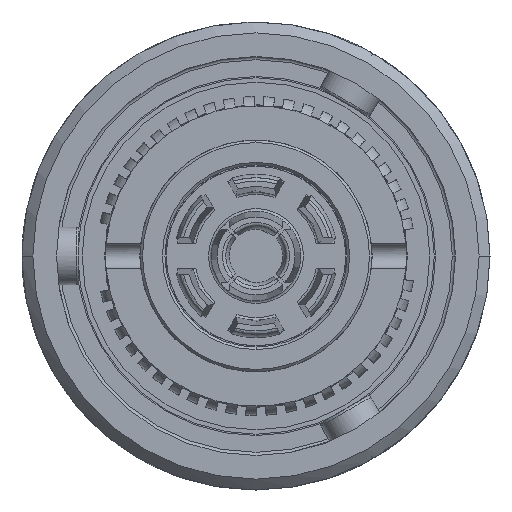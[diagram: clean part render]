
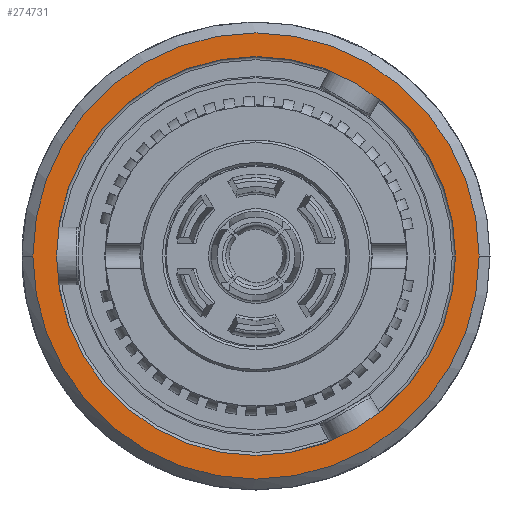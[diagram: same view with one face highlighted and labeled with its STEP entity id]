
A CAD part, left-side view. The second image highlights one B-rep face of the part: STEP entity #274731.
In plain terms, the highlighted planar face has unit normal (-1, 0, 0).
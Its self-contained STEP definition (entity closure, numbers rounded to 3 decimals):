
#77699=CARTESIAN_POINT('',(2.2,0.,0.));
#77700=DIRECTION('',(1.,0.,0.));
#77701=DIRECTION('',(0.,1.,0.));
#77702=AXIS2_PLACEMENT_3D('',#77699,#77700,#77701);
#77862=CARTESIAN_POINT('',(2.2,0.,0.));
#77863=DIRECTION('',(-1.,0.,0.));
#77864=DIRECTION('',(0.,1.,0.));
#77865=AXIS2_PLACEMENT_3D('',#77862,#77863,#77864);
#77993=CARTESIAN_POINT('',(2.2,0.,0.));
#77994=DIRECTION('',(1.,0.,0.));
#77995=DIRECTION('',(0.,1.,0.));
#77996=AXIS2_PLACEMENT_3D('',#77993,#77994,#77995);
#77998=CARTESIAN_POINT('',(2.2,0.,0.));
#77999=DIRECTION('',(-1.,0.,0.));
#78000=DIRECTION('',(0.,1.,0.));
#78001=AXIS2_PLACEMENT_3D('',#77998,#77999,#78000);
#93003=CARTESIAN_POINT('',(2.2,15.56,0.));
#93004=CARTESIAN_POINT('',(2.2,-15.56,0.));
#93005=VERTEX_POINT('',#93003);
#93006=VERTEX_POINT('',#93004);
#93033=CARTESIAN_POINT('',(2.2,-17.4,0.));
#93035=VERTEX_POINT('',#93033);
#93037=CARTESIAN_POINT('',(2.2,17.4,0.));
#93038=VERTEX_POINT('',#93037);
#274716=CARTESIAN_POINT('',(2.2,0.,0.));
#274717=DIRECTION('',(-1.,0.,0.));
#274718=DIRECTION('',(0.,-1.,0.));
#274719=AXIS2_PLACEMENT_3D('',#274716,#274717,#274718);
#274720=PLANE('500',#274719);
#274721=ORIENTED_EDGE('9880',*,*,#274387,.F.);
#274722=ORIENTED_EDGE('9881',*,*,#274044,.T.);
#274723=EDGE_LOOP('500',(#274721,#274722));
#274724=FACE_OUTER_BOUND('500',#274723,.F.);
#274726=ORIENTED_EDGE('9865',*,*,#274725,.F.);
#274728=ORIENTED_EDGE('9864',*,*,#274727,.T.);
#274729=EDGE_LOOP('500',(#274726,#274728));
#274730=FACE_BOUND('500',#274729,.F.);
#77703=CIRCLE('9881',#77702,17.4);
#77866=CIRCLE('9880',#77865,17.4);
#77997=CIRCLE('9865',#77996,15.56);
#78002=CIRCLE('9864',#78001,15.56);
#274044=EDGE_CURVE('9881',#93038,#93035,#77703,.T.);
#274387=EDGE_CURVE('9880',#93038,#93035,#77866,.T.);
#274725=EDGE_CURVE('9865',#93005,#93006,#77997,.T.);
#274727=EDGE_CURVE('9864',#93005,#93006,#78002,.T.);
#274731=ADVANCED_FACE('500',(#274724,#274730),#274720,.T.);
